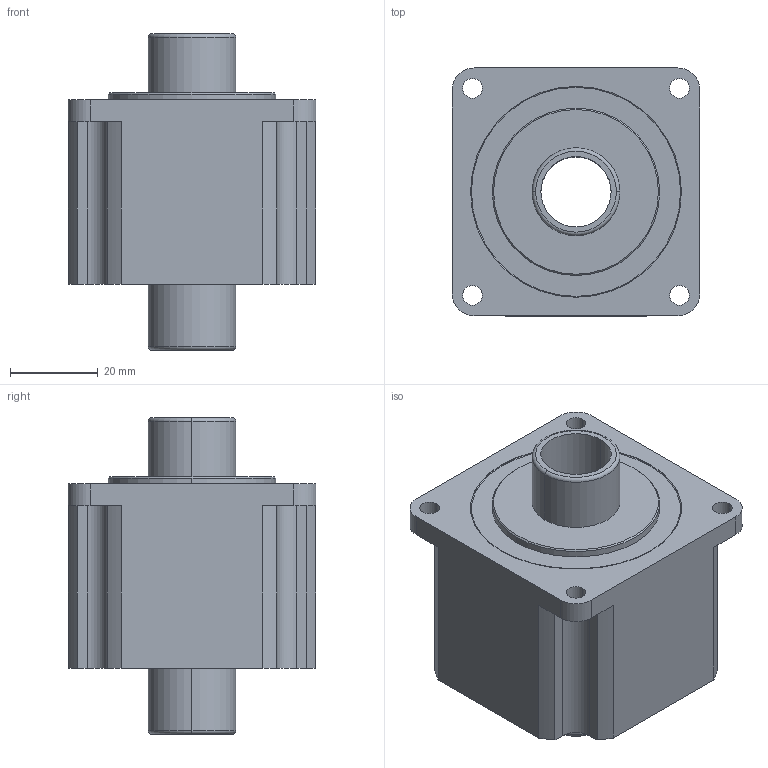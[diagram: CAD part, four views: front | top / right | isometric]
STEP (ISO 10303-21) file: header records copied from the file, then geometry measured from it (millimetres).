
FILE_DESCRIPTION (( 'STEP AP203' ), '1' );
FILE_NAME ('PMSB-B56D1DHW_3D.STEP', '2016-12-02T05:53:25', ( 'user01' ), ( '' ), 'SwSTEP 2.0', 'SolidWorks 2014', '' );
FILE_SCHEMA (( 'CONFIG_CONTROL_DESIGN' ));
Length unit declared in the file: millimetre
Products named in the file (1): PMSB-B56D1DHW_3D
Bounding box: 56.4 x 56.4 x 72 mm (x, y, z)
Volume: 117396.8 mm3; surface area: 20357 mm2
Topology: 1 solids, 1 shells, 64 faces, 166 edges, 108 vertices
Faces by surface type: cylinder 34, plane 22, torus 4, cone 4
Entity records: 2083 total; most frequent: DIRECTION 376, CARTESIAN_POINT 339, ORIENTED_EDGE 332, EDGE_CURVE 166, AXIS2_PLACEMENT_3D 145, VERTEX_POINT 108, VECTOR 86, LINE 86
